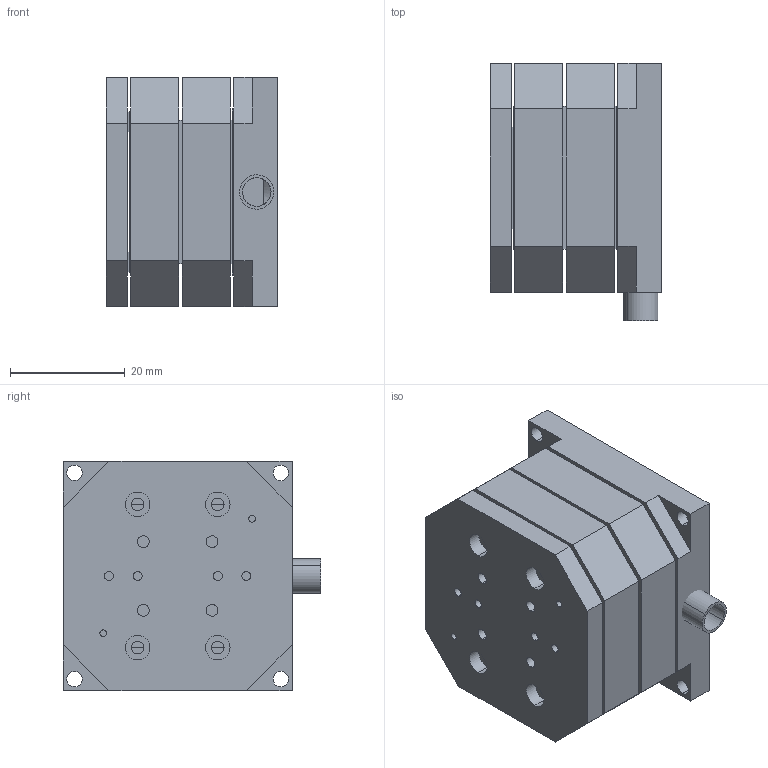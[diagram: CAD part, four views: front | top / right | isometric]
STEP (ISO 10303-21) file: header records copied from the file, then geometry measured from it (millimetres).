
FILE_DESCRIPTION (( 'STEP AP203' ), '1' );
FILE_NAME ('P63.XY-D1×°Åä.STEP', '2020-11-27T07:17:25', ( '' ), ( '' ), 'SwSTEP 2.0', 'SolidWorks 2016', '' );
FILE_SCHEMA (( 'CONFIG_CONTROL_DESIGN' ));
Length unit declared in the file: millimetre
Products named in the file (5): P63-D1台体（市场用）2-20.07.09; P63婥昜啣(P63-05R1); P63.XY-D1蚾饜; M6-0.5誘杶; P63-D1菁釱
Assembly tree (4 placements, depth 2):
  P63.XY-D1蚾饜
    P63-D1台体（市场用）2-20.07.09
    P63-D1菁釱
    P63婥昜啣(P63-05R1)
    M6-0.5誘杶
Bounding box: 30 x 45 x 40 mm (x, y, z)
Volume: 40331.8 mm3; surface area: 16363 mm2
Topology: 4 solids, 4 shells, 168 faces, 412 edges, 268 vertices
Faces by surface type: plane 97, cylinder 62, cone 9
Entity records: 5472 total; most frequent: DIRECTION 879, CARTESIAN_POINT 856, ORIENTED_EDGE 808, EDGE_CURVE 404, AXIS2_PLACEMENT_3D 301, LINE 277, VECTOR 277, VERTEX_POINT 268
